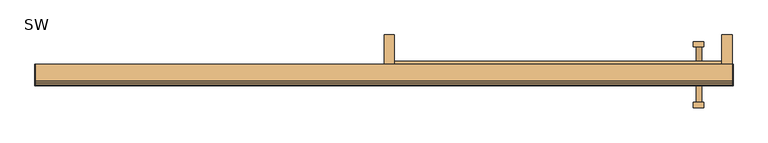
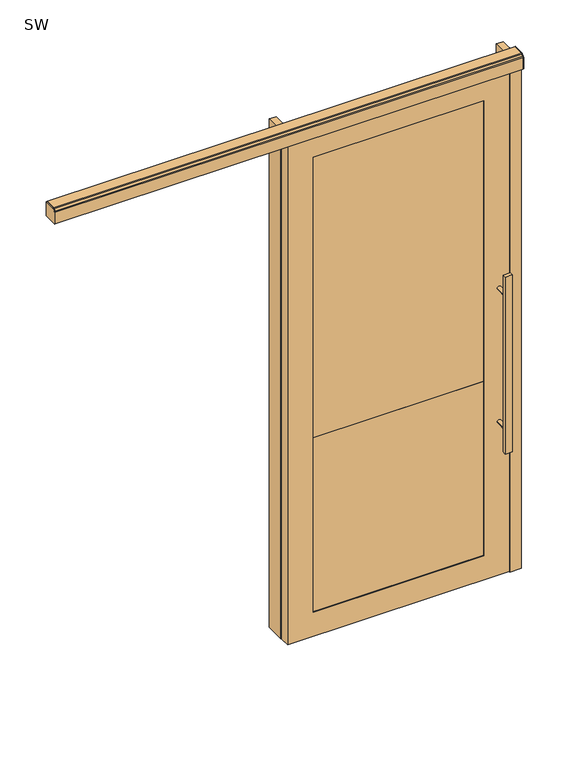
"""IFC4 building model written with IfcOpenShell, lengths in millimetres: door geometry, Mobiliário_Mobiliário de Escritório_Porta Simples de Correr Mista Vidro Duplo com Persiana - SW_Marelli : SW."""

from ifc_helpers import new_model, si_unit, point, frame, frame_2d, origin, origin_with_axes, place, context, project, spatial, polyline, circle_curve, trimmed, segment, composite_curve, outline, extrude, source, transform, mapped, element, save


def sw_ca81cf6f(model_context):
    return source(origin(), model_context, "Body", "SweptSolid", [
        extrude(outline(polyline([(-500.0, -15.0), (-470.0, -15.0), (-470.0, -100.0), (-500.0, -100.0), (-500.0, -15.0)])), origin_with_axes(), (0.0, 0.0, 1.0), 2300.0),
        extrude(outline(polyline([(500.0, -15.0), (500.0, -100.0), (470.0, -100.0), (470.0, -15.0), (500.0, -15.0)])), origin_with_axes(), (0.0, 0.0, 1.0), 2300.0),
        extrude(outline(polyline([(500.0, -100.0), (500.0, -150.0), (450.0, -150.0), (450.0, -100.0), (500.0, -100.0)])), origin_with_axes(), (0.0, 0.0, 1.0), 2280.0),
        extrude(outline(polyline([(388.9, -223.7), (388.9, -208.7), (418.9, -208.7), (418.9, -223.7), (388.9, -223.7)])), frame((0.0, 0.0, 600.0), z_axis=(0.0, 0.0, 1.0), x_axis=(1.0, 0.0, 0.0)), (0.0, 0.0, 1.0), 800.0),
        extrude(outline(composite_curve([segment(trimmed(circle_curve(frame_2d((698.0, 405.0278633)), 8.0), [point((698.0, 397.0278633))], [point((698.0, 413.0278633))], False, "CARTESIAN"), True, "CONTINUOUS"), segment(trimmed(circle_curve(frame_2d((698.0, 405.0278633)), 8.0), [point((698.0, 413.0278633))], [point((698.0, 397.0278633))], False, "CARTESIAN"), True, "CONTINUOUS")], self_intersect=False)), frame((0.0, -208.7, 0.0), z_axis=(0.0, 1.0, 0.0), x_axis=(0.0, 0.0, 1.0)), (0.0, 0.0, 1.0), 58.7),
        extrude(outline(composite_curve([segment(trimmed(circle_curve(frame_2d((1302.0, 405.0278633)), 8.0), [point((1302.0, 397.0278633))], [point((1302.0, 413.0278633))], False, "CARTESIAN"), True, "CONTINUOUS"), segment(trimmed(circle_curve(frame_2d((1302.0, 405.0278633)), 8.0), [point((1302.0, 413.0278633))], [point((1302.0, 397.0278633))], False, "CARTESIAN"), True, "CONTINUOUS")], self_intersect=False)), frame((0.0, -208.7, 0.0), z_axis=(0.0, 1.0, 0.0), x_axis=(0.0, 0.0, 1.0)), (0.0, 0.0, 1.0), 58.7),
        extrude(outline(polyline([(388.9, -34.3), (418.9, -34.3), (418.9, -49.3), (388.9, -49.3), (388.9, -34.3)])), frame((0.0, 0.0, 600.0), z_axis=(0.0, 0.0, 1.0), x_axis=(1.0, 0.0, 0.0)), (0.0, 0.0, 1.0), 800.0),
        extrude(outline(composite_curve([segment(trimmed(circle_curve(frame_2d((698.0, 405.0278633)), 8.0), [point((698.0, 397.0278633))], [point((698.0, 413.0278633))], False, "CARTESIAN"), True, "CONTINUOUS"), segment(trimmed(circle_curve(frame_2d((698.0, 405.0278633)), 8.0), [point((698.0, 413.0278633))], [point((698.0, 397.0278633))], False, "CARTESIAN"), True, "CONTINUOUS")], self_intersect=False)), frame((0.0, -108.0, 0.0), z_axis=(0.0, 1.0, 0.0), x_axis=(0.0, 0.0, 1.0)), (0.0, 0.0, 1.0), 58.7),
        extrude(outline(composite_curve([segment(trimmed(circle_curve(frame_2d((1302.0, 405.0278633)), 8.0), [point((1302.0, 397.0278633))], [point((1302.0, 413.0278633))], False, "CARTESIAN"), True, "CONTINUOUS"), segment(trimmed(circle_curve(frame_2d((1302.0, 405.0278633)), 8.0), [point((1302.0, 413.0278633))], [point((1302.0, 397.0278633))], False, "CARTESIAN"), True, "CONTINUOUS")], self_intersect=False)), frame((0.0, -108.0, 0.0), z_axis=(0.0, 1.0, 0.0), x_axis=(0.0, 0.0, 1.0)), (0.0, 0.0, 1.0), 58.7),
        extrude(outline(polyline([(2280.0, -500.0), (3.0, -500.0), (3.0, 450.0), (2280.0, 450.0), (2280.0, -500.0)]), holes=[polyline([(2170.0, 340.0), (113.0, 340.0), (113.0, -390.0), (2170.0, -390.0), (2170.0, 340.0)])]), frame((0.0, -150.0, 0.0), z_axis=(0.0, 1.0, 0.0), x_axis=(0.0, 0.0, 1.0)), (0.0, 0.0, 1.0), 42.0),
        extrude(outline(polyline([(340.0, -147.5), (-390.0, -147.5), (-390.0, -141.5), (340.0, -141.5), (340.0, -147.5)])), frame((0.0, 0.0, 900.0), z_axis=(0.0, 0.0, 1.0), x_axis=(1.0, 0.0, 0.0)), (0.0, 0.0, 1.0), 1270.0),
        extrude(outline(polyline([(-390.0, -110.5), (340.0, -110.5), (340.0, -116.5), (-390.0, -116.5), (-390.0, -110.5)])), frame((0.0, 0.0, 900.0), z_axis=(0.0, 0.0, 1.0), x_axis=(1.0, 0.0, 0.0)), (0.0, 0.0, 1.0), 1270.0),
        extrude(outline(polyline([(340.0, -122.1216022), (340.0, -138.1216022), (-390.0, -138.1216022), (-390.0, -122.1216022), (340.0, -122.1216022)])), frame((0.0, 0.0, 1199.2), z_axis=(0.0, 0.0, 1.0), x_axis=(1.0, 0.0, 0.0)), (0.0, 0.0, 1.0), 0.8),
        extrude(outline(polyline([(340.0, -122.1216022), (340.0, -138.1216022), (-390.0, -138.1216022), (-390.0, -122.1216022), (340.0, -122.1216022)])), frame((0.0, 0.0, 1169.2), z_axis=(0.0, 0.0, 1.0), x_axis=(1.0, 0.0, 0.0)), (0.0, 0.0, 1.0), 0.8),
        extrude(outline(polyline([(340.0, -122.1216022), (340.0, -138.1216022), (-390.0, -138.1216022), (-390.0, -122.1216022), (340.0, -122.1216022)])), frame((0.0, 0.0, 1139.2), z_axis=(0.0, 0.0, 1.0), x_axis=(1.0, 0.0, 0.0)), (0.0, 0.0, 1.0), 0.8),
        extrude(outline(polyline([(340.0, -122.1216022), (340.0, -138.1216022), (-390.0, -138.1216022), (-390.0, -122.1216022), (340.0, -122.1216022)])), frame((0.0, 0.0, 1109.2), z_axis=(0.0, 0.0, 1.0), x_axis=(1.0, 0.0, 0.0)), (0.0, 0.0, 1.0), 0.8),
        extrude(outline(polyline([(340.0, -122.1216022), (340.0, -138.1216022), (-390.0, -138.1216022), (-390.0, -122.1216022), (340.0, -122.1216022)])), frame((0.0, 0.0, 1079.2), z_axis=(0.0, 0.0, 1.0), x_axis=(1.0, 0.0, 0.0)), (0.0, 0.0, 1.0), 0.8),
        extrude(outline(polyline([(340.0, -122.1216022), (340.0, -138.1216022), (-390.0, -138.1216022), (-390.0, -122.1216022), (340.0, -122.1216022)])), frame((0.0, 0.0, 1049.2), z_axis=(0.0, 0.0, 1.0), x_axis=(1.0, 0.0, 0.0)), (0.0, 0.0, 1.0), 0.8),
        extrude(outline(polyline([(340.0, -122.1216022), (340.0, -138.1216022), (-390.0, -138.1216022), (-390.0, -122.1216022), (340.0, -122.1216022)])), frame((0.0, 0.0, 1019.2), z_axis=(0.0, 0.0, 1.0), x_axis=(1.0, 0.0, 0.0)), (0.0, 0.0, 1.0), 0.8),
        extrude(outline(polyline([(340.0, -122.1216022), (340.0, -138.1216022), (-390.0, -138.1216022), (-390.0, -122.1216022), (340.0, -122.1216022)])), frame((0.0, 0.0, 989.2), z_axis=(0.0, 0.0, 1.0), x_axis=(1.0, 0.0, 0.0)), (0.0, 0.0, 1.0), 0.8),
        extrude(outline(polyline([(340.0, -122.1216022), (340.0, -138.1216022), (-390.0, -138.1216022), (-390.0, -122.1216022), (340.0, -122.1216022)])), frame((0.0, 0.0, 899.2), z_axis=(0.0, 0.0, 1.0), x_axis=(1.0, 0.0, 0.0)), (0.0, 0.0, 1.0), 0.8),
        extrude(outline(polyline([(340.0, -122.1216022), (340.0, -138.1216022), (-390.0, -138.1216022), (-390.0, -122.1216022), (340.0, -122.1216022)])), frame((0.0, 0.0, 929.2), z_axis=(0.0, 0.0, 1.0), x_axis=(1.0, 0.0, 0.0)), (0.0, 0.0, 1.0), 0.8),
        extrude(outline(polyline([(340.0, -122.1216022), (340.0, -138.1216022), (-390.0, -138.1216022), (-390.0, -122.1216022), (340.0, -122.1216022)])), frame((0.0, 0.0, 959.2), z_axis=(0.0, 0.0, 1.0), x_axis=(1.0, 0.0, 0.0)), (0.0, 0.0, 1.0), 0.8),
        extrude(outline(polyline([(340.0, -122.1216022), (340.0, -138.1216022), (-390.0, -138.1216022), (-390.0, -122.1216022), (340.0, -122.1216022)])), frame((0.0, 0.0, 2129.2), z_axis=(0.0, 0.0, 1.0), x_axis=(1.0, 0.0, 0.0)), (0.0, 0.0, 1.0), 0.8),
        extrude(outline(polyline([(340.0, -122.1216022), (340.0, -138.1216022), (-390.0, -138.1216022), (-390.0, -122.1216022), (340.0, -122.1216022)])), frame((0.0, 0.0, 2099.2), z_axis=(0.0, 0.0, 1.0), x_axis=(1.0, 0.0, 0.0)), (0.0, 0.0, 1.0), 0.8),
        extrude(outline(polyline([(340.0, -122.1216022), (340.0, -138.1216022), (-390.0, -138.1216022), (-390.0, -122.1216022), (340.0, -122.1216022)])), frame((0.0, 0.0, 2069.2), z_axis=(0.0, 0.0, 1.0), x_axis=(1.0, 0.0, 0.0)), (0.0, 0.0, 1.0), 0.8),
        extrude(outline(polyline([(340.0, -122.1216022), (340.0, -138.1216022), (-390.0, -138.1216022), (-390.0, -122.1216022), (340.0, -122.1216022)])), frame((0.0, 0.0, 2039.2), z_axis=(0.0, 0.0, 1.0), x_axis=(1.0, 0.0, 0.0)), (0.0, 0.0, 1.0), 0.8),
        extrude(outline(polyline([(340.0, -122.1216022), (340.0, -138.1216022), (-390.0, -138.1216022), (-390.0, -122.1216022), (340.0, -122.1216022)])), frame((0.0, 0.0, 2009.2), z_axis=(0.0, 0.0, 1.0), x_axis=(1.0, 0.0, 0.0)), (0.0, 0.0, 1.0), 0.8),
        extrude(outline(polyline([(340.0, -122.1216022), (340.0, -138.1216022), (-390.0, -138.1216022), (-390.0, -122.1216022), (340.0, -122.1216022)])), frame((0.0, 0.0, 1979.2), z_axis=(0.0, 0.0, 1.0), x_axis=(1.0, 0.0, 0.0)), (0.0, 0.0, 1.0), 0.8),
        extrude(outline(polyline([(340.0, -122.1216022), (340.0, -138.1216022), (-390.0, -138.1216022), (-390.0, -122.1216022), (340.0, -122.1216022)])), frame((0.0, 0.0, 1949.2), z_axis=(0.0, 0.0, 1.0), x_axis=(1.0, 0.0, 0.0)), (0.0, 0.0, 1.0), 0.8),
        extrude(outline(polyline([(340.0, -122.1216022), (340.0, -138.1216022), (-390.0, -138.1216022), (-390.0, -122.1216022), (340.0, -122.1216022)])), frame((0.0, 0.0, 1919.2), z_axis=(0.0, 0.0, 1.0), x_axis=(1.0, 0.0, 0.0)), (0.0, 0.0, 1.0), 0.8),
        extrude(outline(polyline([(340.0, -122.1216022), (340.0, -138.1216022), (-390.0, -138.1216022), (-390.0, -122.1216022), (340.0, -122.1216022)])), frame((0.0, 0.0, 1889.2), z_axis=(0.0, 0.0, 1.0), x_axis=(1.0, 0.0, 0.0)), (0.0, 0.0, 1.0), 0.8),
        extrude(outline(polyline([(340.0, -122.1216022), (340.0, -138.1216022), (-390.0, -138.1216022), (-390.0, -122.1216022), (340.0, -122.1216022)])), frame((0.0, 0.0, 1859.2), z_axis=(0.0, 0.0, 1.0), x_axis=(1.0, 0.0, 0.0)), (0.0, 0.0, 1.0), 0.8),
        extrude(outline(polyline([(340.0, -122.1216022), (340.0, -138.1216022), (-390.0, -138.1216022), (-390.0, -122.1216022), (340.0, -122.1216022)])), frame((0.0, 0.0, 1829.2), z_axis=(0.0, 0.0, 1.0), x_axis=(1.0, 0.0, 0.0)), (0.0, 0.0, 1.0), 0.8),
        extrude(outline(polyline([(340.0, -122.1216022), (340.0, -138.1216022), (-390.0, -138.1216022), (-390.0, -122.1216022), (340.0, -122.1216022)])), frame((0.0, 0.0, 1799.2), z_axis=(0.0, 0.0, 1.0), x_axis=(1.0, 0.0, 0.0)), (0.0, 0.0, 1.0), 0.8),
        extrude(outline(polyline([(340.0, -122.1216022), (340.0, -138.1216022), (-390.0, -138.1216022), (-390.0, -122.1216022), (340.0, -122.1216022)])), frame((0.0, 0.0, 1769.2), z_axis=(0.0, 0.0, 1.0), x_axis=(1.0, 0.0, 0.0)), (0.0, 0.0, 1.0), 0.8),
        extrude(outline(polyline([(340.0, -122.1216022), (340.0, -138.1216022), (-390.0, -138.1216022), (-390.0, -122.1216022), (340.0, -122.1216022)])), frame((0.0, 0.0, 1739.2), z_axis=(0.0, 0.0, 1.0), x_axis=(1.0, 0.0, 0.0)), (0.0, 0.0, 1.0), 0.8),
        extrude(outline(polyline([(340.0, -122.1216022), (340.0, -138.1216022), (-390.0, -138.1216022), (-390.0, -122.1216022), (340.0, -122.1216022)])), frame((0.0, 0.0, 1709.2), z_axis=(0.0, 0.0, 1.0), x_axis=(1.0, 0.0, 0.0)), (0.0, 0.0, 1.0), 0.8),
        extrude(outline(polyline([(340.0, -122.1216022), (340.0, -138.1216022), (-390.0, -138.1216022), (-390.0, -122.1216022), (340.0, -122.1216022)])), frame((0.0, 0.0, 1679.2), z_axis=(0.0, 0.0, 1.0), x_axis=(1.0, 0.0, 0.0)), (0.0, 0.0, 1.0), 0.8),
        extrude(outline(polyline([(340.0, -122.1216022), (340.0, -138.1216022), (-390.0, -138.1216022), (-390.0, -122.1216022), (340.0, -122.1216022)])), frame((0.0, 0.0, 1649.2), z_axis=(0.0, 0.0, 1.0), x_axis=(1.0, 0.0, 0.0)), (0.0, 0.0, 1.0), 0.8),
        extrude(outline(polyline([(340.0, -122.1216022), (340.0, -138.1216022), (-390.0, -138.1216022), (-390.0, -122.1216022), (340.0, -122.1216022)])), frame((0.0, 0.0, 1619.2), z_axis=(0.0, 0.0, 1.0), x_axis=(1.0, 0.0, 0.0)), (0.0, 0.0, 1.0), 0.8),
        extrude(outline(polyline([(340.0, -122.1216022), (340.0, -138.1216022), (-390.0, -138.1216022), (-390.0, -122.1216022), (340.0, -122.1216022)])), frame((0.0, 0.0, 1589.2), z_axis=(0.0, 0.0, 1.0), x_axis=(1.0, 0.0, 0.0)), (0.0, 0.0, 1.0), 0.8),
        extrude(outline(polyline([(340.0, -122.1216022), (340.0, -138.1216022), (-390.0, -138.1216022), (-390.0, -122.1216022), (340.0, -122.1216022)])), frame((0.0, 0.0, 1559.2), z_axis=(0.0, 0.0, 1.0), x_axis=(1.0, 0.0, 0.0)), (0.0, 0.0, 1.0), 0.8),
        extrude(outline(polyline([(340.0, -122.1216022), (340.0, -138.1216022), (-390.0, -138.1216022), (-390.0, -122.1216022), (340.0, -122.1216022)])), frame((0.0, 0.0, 1529.2), z_axis=(0.0, 0.0, 1.0), x_axis=(1.0, 0.0, 0.0)), (0.0, 0.0, 1.0), 0.8),
        extrude(outline(polyline([(340.0, -122.1216022), (340.0, -138.1216022), (-390.0, -138.1216022), (-390.0, -122.1216022), (340.0, -122.1216022)])), frame((0.0, 0.0, 1499.2), z_axis=(0.0, 0.0, 1.0), x_axis=(1.0, 0.0, 0.0)), (0.0, 0.0, 1.0), 0.8),
        extrude(outline(polyline([(340.0, -122.1216022), (340.0, -138.1216022), (-390.0, -138.1216022), (-390.0, -122.1216022), (340.0, -122.1216022)])), frame((0.0, 0.0, 1469.2), z_axis=(0.0, 0.0, 1.0), x_axis=(1.0, 0.0, 0.0)), (0.0, 0.0, 1.0), 0.8),
        extrude(outline(polyline([(340.0, -122.1216022), (340.0, -138.1216022), (-390.0, -138.1216022), (-390.0, -122.1216022), (340.0, -122.1216022)])), frame((0.0, 0.0, 1439.2), z_axis=(0.0, 0.0, 1.0), x_axis=(1.0, 0.0, 0.0)), (0.0, 0.0, 1.0), 0.8),
        extrude(outline(polyline([(340.0, -122.1216022), (340.0, -138.1216022), (-390.0, -138.1216022), (-390.0, -122.1216022), (340.0, -122.1216022)])), frame((0.0, 0.0, 1409.2), z_axis=(0.0, 0.0, 1.0), x_axis=(1.0, 0.0, 0.0)), (0.0, 0.0, 1.0), 0.8),
        extrude(outline(polyline([(340.0, -122.1216022), (340.0, -138.1216022), (-390.0, -138.1216022), (-390.0, -122.1216022), (340.0, -122.1216022)])), frame((0.0, 0.0, 1379.2), z_axis=(0.0, 0.0, 1.0), x_axis=(1.0, 0.0, 0.0)), (0.0, 0.0, 1.0), 0.8),
        extrude(outline(polyline([(340.0, -122.1216022), (340.0, -138.1216022), (-390.0, -138.1216022), (-390.0, -122.1216022), (340.0, -122.1216022)])), frame((0.0, 0.0, 1349.2), z_axis=(0.0, 0.0, 1.0), x_axis=(1.0, 0.0, 0.0)), (0.0, 0.0, 1.0), 0.8),
        extrude(outline(polyline([(340.0, -122.1216022), (340.0, -138.1216022), (-390.0, -138.1216022), (-390.0, -122.1216022), (340.0, -122.1216022)])), frame((0.0, 0.0, 1319.2), z_axis=(0.0, 0.0, 1.0), x_axis=(1.0, 0.0, 0.0)), (0.0, 0.0, 1.0), 0.8),
        extrude(outline(polyline([(340.0, -122.1216022), (340.0, -138.1216022), (-390.0, -138.1216022), (-390.0, -122.1216022), (340.0, -122.1216022)])), frame((0.0, 0.0, 1289.2), z_axis=(0.0, 0.0, 1.0), x_axis=(1.0, 0.0, 0.0)), (0.0, 0.0, 1.0), 0.8),
        extrude(outline(polyline([(340.0, -122.1216022), (340.0, -138.1216022), (-390.0, -138.1216022), (-390.0, -122.1216022), (340.0, -122.1216022)])), frame((0.0, 0.0, 1259.2), z_axis=(0.0, 0.0, 1.0), x_axis=(1.0, 0.0, 0.0)), (0.0, 0.0, 1.0), 0.8),
        extrude(outline(polyline([(340.0, -122.1216022), (340.0, -138.1216022), (-390.0, -138.1216022), (-390.0, -122.1216022), (340.0, -122.1216022)])), frame((0.0, 0.0, 1229.2), z_axis=(0.0, 0.0, 1.0), x_axis=(1.0, 0.0, 0.0)), (0.0, 0.0, 1.0), 0.8),
        extrude(outline(polyline([(470.0, -90.0), (470.0, -100.0), (-470.0, -100.0), (-470.0, -90.0), (470.0, -90.0)])), frame((0.0, 0.0, 2270.0), z_axis=(0.0, 0.0, 1.0), x_axis=(1.0, 0.0, 0.0)), (0.0, 0.0, 1.0), 30.0),
        extrude(outline(composite_curve([segment(polyline([(-100.0, 2280.0), (-103.7, 2280.0), (-103.7, 2288.4), (-118.3, 2288.4), (-118.3, 2316.9), (-142.2, 2316.9), (-142.2, 2288.4), (-156.1, 2288.4), (-156.1, 2264.2), (-161.3, 2264.2), (-161.3, 2316.3833057)]), True, "CONTINUOUS"), segment(trimmed(circle_curve(frame_2d((-154.7488615, 2316.4864296)), 6.5519502), [point((-161.3, 2316.3833057))], [point((-159.3082964, 2321.1917036))], False, "CARTESIAN"), True, "CONTINUOUS"), segment(polyline([(-159.3082964, 2321.1917036), (-153.2917036, 2327.2082964)]), True, "CONTINUOUS"), segment(trimmed(circle_curve(frame_2d((-148.5864296, 2322.6488615)), 6.5519502), [point((-153.2917036, 2327.2082964))], [point((-148.4833057, 2329.2))], False, "CARTESIAN"), True, "CONTINUOUS"), segment(polyline([(-148.4833057, 2329.2), (-100.0, 2329.2), (-100.0, 2280.0)]), True, "CONTINUOUS")], self_intersect=False)), frame((-1500.0, 0.0, 0.0), z_axis=(1.0, 0.0, 0.0), x_axis=(0.0, 1.0, 0.0)), (0.0, 0.0, 1.0), 2000.0),
        extrude(outline(composite_curve([segment(polyline([(-100.0, 2264.2), (-161.3, 2264.2), (-161.3, 2316.3833057)]), True, "CONTINUOUS"), segment(trimmed(circle_curve(frame_2d((-154.7488615, 2316.4864296)), 6.5519502), [point((-161.3, 2316.3833057))], [point((-159.3082964, 2321.1917036))], False, "CARTESIAN"), True, "CONTINUOUS"), segment(polyline([(-159.3082964, 2321.1917036), (-153.2917036, 2327.2082964)]), True, "CONTINUOUS"), segment(trimmed(circle_curve(frame_2d((-148.5864296, 2322.6488615)), 6.5519502), [point((-153.2917036, 2327.2082964))], [point((-148.4833057, 2329.2))], False, "CARTESIAN"), True, "CONTINUOUS"), segment(polyline([(-148.4833057, 2329.2), (-100.0, 2329.2), (-100.0, 2264.2)]), True, "CONTINUOUS")], self_intersect=False)), frame((500.0, 0.0, 0.0), z_axis=(1.0, 0.0, 0.0), x_axis=(0.0, 1.0, 0.0)), (0.0, 0.0, 1.0), 3.0),
        extrude(outline(composite_curve([segment(polyline([(-100.0, 2264.2), (-161.3, 2264.2), (-161.3, 2316.3833057)]), True, "CONTINUOUS"), segment(trimmed(circle_curve(frame_2d((-154.7488615, 2316.4864296)), 6.5519502), [point((-161.3, 2316.3833057))], [point((-159.3082964, 2321.1917036))], False, "CARTESIAN"), True, "CONTINUOUS"), segment(polyline([(-159.3082964, 2321.1917036), (-153.2917036, 2327.2082964)]), True, "CONTINUOUS"), segment(trimmed(circle_curve(frame_2d((-148.5864296, 2322.6488615)), 6.5519502), [point((-153.2917036, 2327.2082964))], [point((-148.4833057, 2329.2))], False, "CARTESIAN"), True, "CONTINUOUS"), segment(polyline([(-148.4833057, 2329.2), (-100.0, 2329.2), (-100.0, 2264.2)]), True, "CONTINUOUS")], self_intersect=False)), frame((-1503.0, 0.0, 0.0), z_axis=(1.0, 0.0, 0.0), x_axis=(0.0, 1.0, 0.0)), (0.0, 0.0, 1.0), 3.0),
        extrude(outline(polyline([(340.0, -147.5), (-390.0, -147.5), (-390.0, -110.5), (340.0, -110.5), (340.0, -147.5)])), frame((0.0, 0.0, 113.0), z_axis=(0.0, 0.0, 1.0), x_axis=(1.0, 0.0, 0.0)), (0.0, 0.0, 1.0), 787.0),
        extrude(outline(polyline([(340.0, -116.5), (340.0, -141.5), (-390.0, -141.5), (-390.0, -116.5), (340.0, -116.5)])), frame((0.0, 0.0, 2145.0), z_axis=(0.0, 0.0, 1.0), x_axis=(1.0, 0.0, 0.0)), (0.0, 0.0, 1.0), 25.0),
    ])


if __name__ == "__main__":
    model = new_model("IFC4")
    model_context = context("Model", 3, world=origin())
    ifc_project = project(units=[si_unit("LENGTHUNIT", "METRE", prefix="MILLI")], contexts=[model_context])
    site = spatial("IfcSite", under=ifc_project)
    building = spatial("IfcBuilding", under=site)
    placement = place(None, origin())
    sw_shape = sw_ca81cf6f(model_context)
    element("IfcDoor", 1, ObjectType="Mobiliário_Mobiliário de Escritório_Porta Simples de Correr Mista Vidro Duplo com Persiana - SW_Marelli : SW", at=placement, inside=building, context=model_context, shape_type="MappedRepresentation", body=[
        mapped(sw_shape, transform((0.0, 0.0, 0.0), x_axis=(1.0, 0.0, 0.0), y_axis=(0.0, 1.0, 0.0), z_axis=(0.0, 0.0, 1.0))),
    ])
    save(model, "model.ifc")
